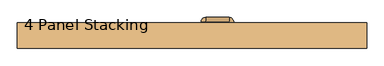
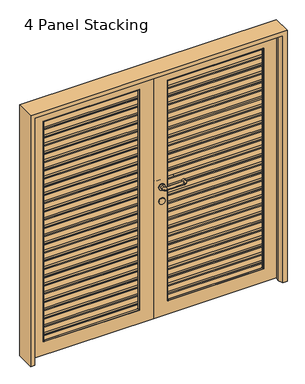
"""IFC4 building model written with IfcOpenShell, lengths in millimetres: door geometry, PORTA VENEZIANA 2 PAINÉIS ABRIR PARAMÉTRICA1 : 4 Panel Stacking."""

from ifc_helpers import new_model, si_unit, point, frame, frame_2d, origin, place, context, project, spatial, polyline, circle_curve, ellipse_curve, trimmed, segment, composite_curve, outline, extrude, faceted_brep, source, transform, mapped, element, save
from ifc_brep_helpers import plane_surface, cylinder_surface, revolved_surface, advanced_brep


def door_4_panel_stacking_4a8a8c32(model_context):
    return source(origin(), model_context, "Body", "SolidModel", [
        extrude(outline(composite_curve([segment(trimmed(circle_curve(frame_2d((2090.0, -75.4238872)), 10.0), [point((2100.0, -75.4238872))], [point((2090.0, -85.4238872))], False, "CARTESIAN"), True, "CONTINUOUS"), segment(polyline([(2090.0, -85.4238872), (1910.0, -85.4238872)]), True, "CONTINUOUS"), segment(trimmed(circle_curve(frame_2d((1910.0, -75.4238872)), 10.0), [point((1910.0, -85.4238872))], [point((1900.0, -75.4238872))], False, "CARTESIAN"), True, "CONTINUOUS"), segment(polyline([(1900.0, -75.4238872), (1900.0, -55.4238872)]), True, "CONTINUOUS"), segment(trimmed(circle_curve(frame_2d((1910.0, -55.4238872)), 10.0), [point((1900.0, -55.4238872))], [point((1910.0, -45.4238872))], False, "CARTESIAN"), True, "CONTINUOUS"), segment(polyline([(1910.0, -45.4238872), (2090.0, -45.4238872)]), True, "CONTINUOUS"), segment(trimmed(circle_curve(frame_2d((2090.0, -55.4238872)), 10.0), [point((2090.0, -45.4238872))], [point((2100.0, -55.4238872))], False, "CARTESIAN"), True, "CONTINUOUS"), segment(polyline([(2100.0, -55.4238872), (2100.0, -75.4238872)]), True, "CONTINUOUS")], self_intersect=False), holes=[composite_curve([segment(polyline([(2060.0, -75.4238872), (2060.0, -55.4238872)]), True, "CONTINUOUS"), segment(trimmed(circle_curve(frame_2d((2055.0, -55.4238872)), 5.0), [point((2060.0, -55.4238872))], [point((2055.0, -50.4238872))], True, "CARTESIAN"), True, "CONTINUOUS"), segment(polyline([(2055.0, -50.4238872), (1945.0, -50.4238872)]), True, "CONTINUOUS"), segment(trimmed(circle_curve(frame_2d((1945.0, -55.4238872)), 5.0), [point((1945.0, -50.4238872))], [point((1940.0, -55.4238872))], True, "CARTESIAN"), True, "CONTINUOUS"), segment(polyline([(1940.0, -55.4238872), (1940.0, -75.4238872)]), True, "CONTINUOUS"), segment(trimmed(circle_curve(frame_2d((1945.0, -75.4238872)), 5.0), [point((1940.0, -75.4238872))], [point((1945.0, -80.4238872))], True, "CARTESIAN"), True, "CONTINUOUS"), segment(polyline([(1945.0, -80.4238872), (2055.0, -80.4238872)]), True, "CONTINUOUS"), segment(trimmed(circle_curve(frame_2d((2055.0, -75.4238872)), 5.0), [point((2055.0, -80.4238872))], [point((2060.0, -75.4238872))], True, "CARTESIAN"), True, "CONTINUOUS")], self_intersect=False), composite_curve([segment(trimmed(circle_curve(frame_2d((2085.0, -65.4238872)), 5.0), [point((2085.0, -70.4238872))], [point((2085.0, -60.4238872))], True, "CARTESIAN"), True, "CONTINUOUS"), segment(trimmed(circle_curve(frame_2d((2085.0, -65.4238872)), 5.0), [point((2085.0, -60.4238872))], [point((2085.0, -70.4238872))], True, "CARTESIAN"), True, "CONTINUOUS")], self_intersect=False), composite_curve([segment(trimmed(circle_curve(frame_2d((1915.0, -65.4238872)), 5.0), [point((1915.0, -70.4238872))], [point((1915.0, -60.4238872))], True, "CARTESIAN"), True, "CONTINUOUS"), segment(trimmed(circle_curve(frame_2d((1915.0, -65.4238872)), 5.0), [point((1915.0, -60.4238872))], [point((1915.0, -70.4238872))], True, "CARTESIAN"), True, "CONTINUOUS")], self_intersect=False)]), frame((0.0, 54.8719375, 0.0), z_axis=(0.0, 1.0, 0.0), x_axis=(0.0, 0.0, 1.0)), (0.0, 0.0, 1.0), 3.0),
        extrude(outline(composite_curve([segment(trimmed(circle_curve(frame_2d((193.7587287, -75.4238872)), 10.0), [point((203.7587287, -75.4238872))], [point((193.7587287, -85.4238872))], False, "CARTESIAN"), True, "CONTINUOUS"), segment(polyline([(193.7587287, -85.4238872), (13.7587287, -85.4238872)]), True, "CONTINUOUS"), segment(trimmed(circle_curve(frame_2d((13.7587287, -75.4238872)), 10.0), [point((13.7587287, -85.4238872))], [point((3.7587287, -75.4238872))], False, "CARTESIAN"), True, "CONTINUOUS"), segment(polyline([(3.7587287, -75.4238872), (3.7587287, -55.4238872)]), True, "CONTINUOUS"), segment(trimmed(circle_curve(frame_2d((13.7587287, -55.4238872)), 10.0), [point((3.7587287, -55.4238872))], [point((13.7587287, -45.4238872))], False, "CARTESIAN"), True, "CONTINUOUS"), segment(polyline([(13.7587287, -45.4238872), (193.7587287, -45.4238872)]), True, "CONTINUOUS"), segment(trimmed(circle_curve(frame_2d((193.7587287, -55.4238872)), 10.0), [point((193.7587287, -45.4238872))], [point((203.7587287, -55.4238872))], False, "CARTESIAN"), True, "CONTINUOUS"), segment(polyline([(203.7587287, -55.4238872), (203.7587287, -75.4238872)]), True, "CONTINUOUS")], self_intersect=False), holes=[composite_curve([segment(trimmed(circle_curve(frame_2d((188.7587287, -65.4238872)), 5.0), [point((188.7587287, -70.4238872))], [point((188.7587287, -60.4238872))], True, "CARTESIAN"), True, "CONTINUOUS"), segment(trimmed(circle_curve(frame_2d((188.7587287, -65.4238872)), 5.0), [point((188.7587287, -60.4238872))], [point((188.7587287, -70.4238872))], True, "CARTESIAN"), True, "CONTINUOUS")], self_intersect=False), composite_curve([segment(trimmed(circle_curve(frame_2d((18.7587287, -65.4238872)), 5.0), [point((18.7587287, -70.4238872))], [point((18.7587287, -60.4238872))], True, "CARTESIAN"), True, "CONTINUOUS"), segment(trimmed(circle_curve(frame_2d((18.7587287, -65.4238872)), 5.0), [point((18.7587287, -60.4238872))], [point((18.7587287, -70.4238872))], True, "CARTESIAN"), True, "CONTINUOUS")], self_intersect=False), composite_curve([segment(polyline([(163.7587287, -75.4238872), (163.7587287, -55.4238872)]), True, "CONTINUOUS"), segment(trimmed(circle_curve(frame_2d((158.7587287, -55.4238872)), 5.0), [point((163.7587287, -55.4238872))], [point((158.7587287, -50.4238872))], True, "CARTESIAN"), True, "CONTINUOUS"), segment(polyline([(158.7587287, -50.4238872), (48.7587287, -50.4238872)]), True, "CONTINUOUS"), segment(trimmed(circle_curve(frame_2d((48.7587287, -55.4238872)), 5.0), [point((48.7587287, -50.4238872))], [point((43.7587287, -55.4238872))], True, "CARTESIAN"), True, "CONTINUOUS"), segment(polyline([(43.7587287, -55.4238872), (43.7587287, -75.4238872)]), True, "CONTINUOUS"), segment(trimmed(circle_curve(frame_2d((48.7587287, -75.4238872)), 5.0), [point((43.7587287, -75.4238872))], [point((48.7587287, -80.4238872))], True, "CARTESIAN"), True, "CONTINUOUS"), segment(polyline([(48.7587287, -80.4238872), (158.7587287, -80.4238872)]), True, "CONTINUOUS"), segment(trimmed(circle_curve(frame_2d((158.7587287, -75.4238872)), 5.0), [point((158.7587287, -80.4238872))], [point((163.7587287, -75.4238872))], True, "CARTESIAN"), True, "CONTINUOUS")], self_intersect=False)]), frame((0.0, 54.8719375, 0.0), z_axis=(0.0, 1.0, 0.0), x_axis=(0.0, 0.0, 1.0)), (0.0, 0.0, 1.0), 3.0),
        advanced_brep(
        [(77.4238872, 62.8719375, 1100.0), (53.4238872, 62.8719375, 1100.0), (77.4238872, 79.8719375, 1100.0), (53.4238872, 79.8719375, 1100.0), (80.4238872, 106.8719375, 1100.0), (80.4238872, 82.8719375, 1100.0), (220.4238872, 82.8719375, 1100.0), (220.4238872, 106.8719375, 1100.0), (247.4238872, 79.8719375, 1100.0), (223.4238872, 79.8719375, 1100.0), (223.4238872, 64.8719375, 1100.0), (247.4238872, 64.8719375, 1100.0)],
        [
            (0, 1, circle_curve(frame((65.4238872, 62.8719375, 1100.0), z_axis=(0.0, -1.0, 0.0), x_axis=(-1.0, 0.0, 0.0)), 12.0)),
            (1, 0, circle_curve(frame((65.4238872, 62.8719375, 1100.0), z_axis=(0.0, -1.0, 0.0), x_axis=(-1.0, 0.0, 0.0)), 12.0)),
            (0, 2),
            (2, 3, circle_curve(frame((65.4238872, 79.8719375, 1100.0), z_axis=(0.0, -1.0, 0.0), x_axis=(-1.0, 0.0, 0.0)), 12.0)),
            (3, 1),
            (3, 2, circle_curve(frame((65.4238872, 79.8719375, 1100.0), z_axis=(0.0, -1.0, 0.0), x_axis=(-1.0, 0.0, 0.0)), 12.0)),
            (4, 3, circle_curve(frame((80.4238872, 79.8719375, 1100.0), z_axis=(0.0, 0.0, 1.0), x_axis=(-1.0, 0.0, 0.0)), 27.0)),
            (2, 5, circle_curve(frame((80.4238872, 79.8719375, 1100.0), z_axis=(0.0, 0.0, -1.0), x_axis=(-1.0, 0.0, 0.0)), 3.0)),
            (5, 4, circle_curve(frame((80.4238872, 94.8719375, 1100.0), z_axis=(-1.0, 0.0, 0.0), x_axis=(0.0, 1.0, 0.0)), 12.0)),
            (4, 5, circle_curve(frame((80.4238872, 94.8719375, 1100.0), z_axis=(-1.0, 0.0, 0.0), x_axis=(0.0, 1.0, 0.0)), 12.0)),
            (5, 6),
            (6, 7, circle_curve(frame((220.4238872, 94.8719375, 1100.0), z_axis=(-1.0, 0.0, 0.0), x_axis=(0.0, 1.0, 0.0)), 12.0)),
            (7, 4),
            (7, 6, circle_curve(frame((220.4238872, 94.8719375, 1100.0), z_axis=(-1.0, 0.0, 0.0), x_axis=(0.0, 1.0, 0.0)), 12.0)),
            (8, 7, circle_curve(frame((220.4238872, 79.8719375, 1100.0), z_axis=(0.0, 0.0, 1.0), x_axis=(0.0, 1.0, 0.0)), 27.0)),
            (6, 9, circle_curve(frame((220.4238872, 79.8719375, 1100.0), z_axis=(0.0, 0.0, -1.0), x_axis=(0.0, 1.0, 0.0)), 3.0)),
            (9, 8, circle_curve(frame((235.4238872, 79.8719375, 1100.0), z_axis=(0.0, 1.0, 0.0), x_axis=(1.0, 0.0, 0.0)), 12.0)),
            (8, 9, circle_curve(frame((235.4238872, 79.8719375, 1100.0), z_axis=(0.0, 1.0, 0.0), x_axis=(1.0, 0.0, 0.0)), 12.0)),
            (10, 11, circle_curve(frame((235.4238872, 64.8719375, 1100.0), z_axis=(0.0, -1.0, 0.0), x_axis=(1.0, 0.0, 0.0)), 12.0)),
            (11, 10, circle_curve(frame((235.4238872, 64.8719375, 1100.0), z_axis=(0.0, -1.0, 0.0), x_axis=(1.0, 0.0, 0.0)), 12.0)),
            (9, 10),
            (11, 8),
        ],
        [
            plane_surface(frame((-776.5761128, 62.8719375, 1930.0), z_axis=(0.0, -1.0, 0.0), x_axis=(0.0, 0.0, 1.0))),
            cylinder_surface(frame((65.4238872, 62.8719375, 1100.0), z_axis=(0.0, -1.0, 0.0), x_axis=(-1.0, 0.0, 0.0)), 12.0),
            revolved_surface(trimmed(ellipse_curve(frame((65.4238872, 79.8719375, 1100.0), z_axis=(0.0, -1.0, 0.0), x_axis=(-1.0, 0.0, 0.0)), 12.0, 12.0), [point((77.4238872, 79.8719375, 1100.0))], [point((53.4238872, 79.8719375, 1100.0))], True, "CARTESIAN"), (80.4238872, 79.8719375, 1930.0), (0.0, 0.0, -1.0)),
            revolved_surface(trimmed(ellipse_curve(frame((65.4238872, 79.8719375, 1100.0), z_axis=(0.0, -1.0, 0.0), x_axis=(-1.0, 0.0, 0.0)), 12.0, 12.0), [point((53.4238872, 79.8719375, 1100.0))], [point((77.4238872, 79.8719375, 1100.0))], True, "CARTESIAN"), (80.4238872, 79.8719375, 1930.0), (0.0, 0.0, -1.0)),
            cylinder_surface(frame((80.4238872, 94.8719375, 1100.0), z_axis=(-1.0, 0.0, 0.0), x_axis=(0.0, 1.0, 0.0)), 12.0),
            revolved_surface(trimmed(ellipse_curve(frame((220.4238872, 94.8719375, 1100.0), z_axis=(-1.0, 0.0, 0.0), x_axis=(0.0, 1.0, 0.0)), 12.0, 12.0), [point((220.4238872, 82.8719375, 1100.0))], [point((220.4238872, 106.8719375, 1100.0))], True, "CARTESIAN"), (220.4238872, 79.8719375, 1930.0), (0.0, 0.0, -1.0)),
            revolved_surface(trimmed(ellipse_curve(frame((220.4238872, 94.8719375, 1100.0), z_axis=(-1.0, 0.0, 0.0), x_axis=(0.0, 1.0, 0.0)), 12.0, 12.0), [point((220.4238872, 106.8719375, 1100.0))], [point((220.4238872, 82.8719375, 1100.0))], True, "CARTESIAN"), (220.4238872, 79.8719375, 1930.0), (0.0, 0.0, -1.0)),
            plane_surface(frame((-606.5761128, 64.8719375, 1930.0), z_axis=(0.0, -1.0, 0.0), x_axis=(0.0, 0.0, -1.0))),
            cylinder_surface(frame((235.4238872, 79.8719375, 1100.0), z_axis=(0.0, 1.0, 0.0), x_axis=(1.0, 0.0, 0.0)), 12.0),
        ],
        [
            (0, [[1, 2]]),
            (1, [[-1, 3, 4, 5]]),
            (1, [[-2, -5, 6, -3]]),
            (2, [[7, -4, 8, 9]]),
            (3, [[-8, -6, -7, 10]]),
            (4, [[-9, 11, 12, 13]]),
            (4, [[-10, -13, 14, -11]]),
            (5, [[15, -12, 16, 17]]),
            (6, [[-16, -14, -15, 18]]),
            (7, [[19, 20]]),
            (8, [[-17, 21, -20, 22]]),
            (8, [[-18, -22, -19, -21]]),
        ],
    ),
        extrude(outline(composite_curve([segment(trimmed(circle_curve(frame_2d((980.0, 65.4238872)), 25.0), [point((980.0, 40.4238872))], [point((980.0, 90.4238872))], False, "CARTESIAN"), True, "CONTINUOUS"), segment(trimmed(circle_curve(frame_2d((980.0, 65.4238872)), 25.0), [point((980.0, 90.4238872))], [point((980.0, 40.4238872))], False, "CARTESIAN"), True, "CONTINUOUS")], self_intersect=False)), frame((0.0, 54.8719375, 0.0), z_axis=(0.0, 1.0, 0.0), x_axis=(0.0, 0.0, 1.0)), (0.0, 0.0, 1.0), 8.0),
        extrude(outline(composite_curve([segment(trimmed(circle_curve(frame_2d((1100.0, 65.4238872)), 25.0), [point((1100.0, 40.4238872))], [point((1100.0, 90.4238872))], False, "CARTESIAN"), True, "CONTINUOUS"), segment(trimmed(circle_curve(frame_2d((1100.0, 65.4238872)), 25.0), [point((1100.0, 90.4238872))], [point((1100.0, 40.4238872))], False, "CARTESIAN"), True, "CONTINUOUS")], self_intersect=False)), frame((0.0, 54.8719375, 0.0), z_axis=(0.0, 1.0, 0.0), x_axis=(0.0, 0.0, 1.0)), (0.0, 0.0, 1.0), 8.0),
        advanced_brep(
        [(53.4238872, -8.1280625, 1100.0), (77.4238872, -8.1280625, 1100.0), (53.4238872, -25.1280625, 1100.0), (77.4238872, -25.1280625, 1100.0), (80.4238872, -28.1280625, 1100.0), (80.4238872, -52.1280625, 1100.0), (220.4238872, -52.1280625, 1100.0), (220.4238872, -28.1280625, 1100.0), (223.4238872, -25.1280625, 1100.0), (247.4238872, -25.1280625, 1100.0), (247.4238872, -10.1280625, 1100.0), (223.4238872, -10.1280625, 1100.0)],
        [
            (0, 1, circle_curve(frame((65.4238872, -8.1280625, 1100.0), z_axis=(0.0, 1.0, 0.0), x_axis=(1.0, 0.0, 0.0)), 12.0)),
            (1, 0, circle_curve(frame((65.4238872, -8.1280625, 1100.0), z_axis=(0.0, 1.0, 0.0), x_axis=(1.0, 0.0, 0.0)), 12.0)),
            (0, 2),
            (2, 3, circle_curve(frame((65.4238872, -25.1280625, 1100.0), z_axis=(0.0, 1.0, 0.0), x_axis=(1.0, 0.0, 0.0)), 12.0)),
            (3, 1),
            (3, 2, circle_curve(frame((65.4238872, -25.1280625, 1100.0), z_axis=(0.0, 1.0, 0.0), x_axis=(1.0, 0.0, 0.0)), 12.0)),
            (4, 3, circle_curve(frame((80.4238872, -25.1280625, 1100.0), z_axis=(0.0, 0.0, -1.0), x_axis=(-1.0, 0.0, 0.0)), 3.0)),
            (2, 5, circle_curve(frame((80.4238872, -25.1280625, 1100.0), z_axis=(0.0, 0.0, 1.0), x_axis=(-1.0, 0.0, 0.0)), 27.0)),
            (5, 4, circle_curve(frame((80.4238872, -40.1280625, 1100.0), z_axis=(-1.0, 0.0, 0.0), x_axis=(0.0, 1.0, 0.0)), 12.0)),
            (4, 5, circle_curve(frame((80.4238872, -40.1280625, 1100.0), z_axis=(-1.0, 0.0, 0.0), x_axis=(0.0, 1.0, 0.0)), 12.0)),
            (5, 6),
            (6, 7, circle_curve(frame((220.4238872, -40.1280625, 1100.0), z_axis=(-1.0, 0.0, 0.0), x_axis=(0.0, 1.0, 0.0)), 12.0)),
            (7, 4),
            (7, 6, circle_curve(frame((220.4238872, -40.1280625, 1100.0), z_axis=(-1.0, 0.0, 0.0), x_axis=(0.0, 1.0, 0.0)), 12.0)),
            (8, 7, circle_curve(frame((220.4238872, -25.1280625, 1100.0), z_axis=(0.0, 0.0, -1.0), x_axis=(0.0, -1.0, 0.0)), 3.0)),
            (6, 9, circle_curve(frame((220.4238872, -25.1280625, 1100.0), z_axis=(0.0, 0.0, 1.0), x_axis=(0.0, -1.0, 0.0)), 27.0)),
            (9, 8, circle_curve(frame((235.4238872, -25.1280625, 1100.0), z_axis=(0.0, -1.0, 0.0), x_axis=(-1.0, 0.0, 0.0)), 12.0)),
            (8, 9, circle_curve(frame((235.4238872, -25.1280625, 1100.0), z_axis=(0.0, -1.0, 0.0), x_axis=(-1.0, 0.0, 0.0)), 12.0)),
            (10, 11, circle_curve(frame((235.4238872, -10.1280625, 1100.0), z_axis=(0.0, 1.0, 0.0), x_axis=(-1.0, 0.0, 0.0)), 12.0)),
            (11, 10, circle_curve(frame((235.4238872, -10.1280625, 1100.0), z_axis=(0.0, 1.0, 0.0), x_axis=(-1.0, 0.0, 0.0)), 12.0)),
            (9, 10),
            (11, 8),
        ],
        [
            plane_surface(frame((-776.5761128, -8.1280625, 1930.0), z_axis=(0.0, 1.0, 0.0), x_axis=(0.0, 0.0, -1.0))),
            cylinder_surface(frame((65.4238872, -8.1280625, 1100.0), z_axis=(0.0, 1.0, 0.0), x_axis=(1.0, 0.0, 0.0)), 12.0),
            revolved_surface(trimmed(ellipse_curve(frame((65.4238872, -25.1280625, 1100.0), z_axis=(0.0, 1.0, 0.0), x_axis=(1.0, 0.0, 0.0)), 12.0, 12.0), [point((53.4238872, -25.1280625, 1100.0))], [point((77.4238872, -25.1280625, 1100.0))], True, "CARTESIAN"), (80.4238872, -25.1280625, 1930.0), (0.0, 0.0, 1.0)),
            revolved_surface(trimmed(ellipse_curve(frame((65.4238872, -25.1280625, 1100.0), z_axis=(0.0, 1.0, 0.0), x_axis=(1.0, 0.0, 0.0)), 12.0, 12.0), [point((77.4238872, -25.1280625, 1100.0))], [point((53.4238872, -25.1280625, 1100.0))], True, "CARTESIAN"), (80.4238872, -25.1280625, 1930.0), (0.0, 0.0, 1.0)),
            cylinder_surface(frame((80.4238872, -40.1280625, 1100.0), z_axis=(-1.0, 0.0, 0.0), x_axis=(0.0, 1.0, 0.0)), 12.0),
            revolved_surface(trimmed(ellipse_curve(frame((220.4238872, -40.1280625, 1100.0), z_axis=(-1.0, 0.0, 0.0), x_axis=(0.0, 1.0, 0.0)), 12.0, 12.0), [point((220.4238872, -52.1280625, 1100.0))], [point((220.4238872, -28.1280625, 1100.0))], True, "CARTESIAN"), (220.4238872, -25.1280625, 1930.0), (0.0, 0.0, 1.0)),
            revolved_surface(trimmed(ellipse_curve(frame((220.4238872, -40.1280625, 1100.0), z_axis=(-1.0, 0.0, 0.0), x_axis=(0.0, 1.0, 0.0)), 12.0, 12.0), [point((220.4238872, -28.1280625, 1100.0))], [point((220.4238872, -52.1280625, 1100.0))], True, "CARTESIAN"), (220.4238872, -25.1280625, 1930.0), (0.0, 0.0, 1.0)),
            plane_surface(frame((-606.5761128, -10.1280625, 1930.0), z_axis=(0.0, 1.0, 0.0), x_axis=(0.0, 0.0, 1.0))),
            cylinder_surface(frame((235.4238872, -25.1280625, 1100.0), z_axis=(0.0, -1.0, 0.0), x_axis=(-1.0, 0.0, 0.0)), 12.0),
        ],
        [
            (0, [[1, 2]]),
            (1, [[-1, 3, 4, 5]]),
            (1, [[-2, -5, 6, -3]]),
            (2, [[7, -4, 8, 9]]),
            (3, [[-8, -6, -7, 10]]),
            (4, [[-9, 11, 12, 13]]),
            (4, [[-10, -13, 14, -11]]),
            (5, [[15, -12, 16, 17]]),
            (6, [[-16, -14, -15, 18]]),
            (7, [[19, 20]]),
            (8, [[-17, 21, -20, 22]]),
            (8, [[-18, -22, -19, -21]]),
        ],
    ),
        extrude(outline(composite_curve([segment(trimmed(circle_curve(frame_2d((980.0, 65.4238872)), 25.0), [point((980.0, 40.4238872))], [point((980.0, 90.4238872))], False, "CARTESIAN"), True, "CONTINUOUS"), segment(trimmed(circle_curve(frame_2d((980.0, 65.4238872)), 25.0), [point((980.0, 90.4238872))], [point((980.0, 40.4238872))], False, "CARTESIAN"), True, "CONTINUOUS")], self_intersect=False)), frame((0.0, -8.1280625, 0.0), z_axis=(0.0, 1.0, 0.0), x_axis=(0.0, 0.0, 1.0)), (0.0, 0.0, 1.0), 8.0),
        extrude(outline(composite_curve([segment(trimmed(circle_curve(frame_2d((1100.0, 65.4238872)), 25.0), [point((1100.0, 40.4238872))], [point((1100.0, 90.4238872))], False, "CARTESIAN"), True, "CONTINUOUS"), segment(trimmed(circle_curve(frame_2d((1100.0, 65.4238872)), 25.0), [point((1100.0, 90.4238872))], [point((1100.0, 40.4238872))], False, "CARTESIAN"), True, "CONTINUOUS")], self_intersect=False)), frame((0.0, -8.1280625, 0.0), z_axis=(0.0, 1.0, 0.0), x_axis=(0.0, 0.0, 1.0)), (0.0, 0.0, 1.0), 8.0),
        extrude(outline(polyline([(17.4419219, 1926.3224878), (17.4419219, 1911.3224878), (16.4419219, 1911.3224878), (16.4419219, 1926.4625427), (26.4419219, 1961.4625427), (26.4419219, 1980.3224878), (16.4419219, 1980.3224878), (16.4419219, 1981.3224878), (27.4419219, 1981.3224878), (27.4419219, 1961.3224878), (17.4419219, 1926.3224878)])), frame((-900.075, 0.0, 0.0), z_axis=(1.0, 0.0, 0.0), x_axis=(0.0, 1.0, 0.0)), (0.0, 0.0, 1.0), 800.0),
        extrude(outline(polyline([(17.4419219, 1856.3224878), (17.4419219, 1841.3224878), (16.4419219, 1841.3224878), (16.4419219, 1856.4625427), (26.4419219, 1891.4625427), (26.4419219, 1910.3224878), (16.4419219, 1910.3224878), (16.4419219, 1911.3224878), (27.4419219, 1911.3224878), (27.4419219, 1891.3224878), (17.4419219, 1856.3224878)])), frame((-900.075, 0.0, 0.0), z_axis=(1.0, 0.0, 0.0), x_axis=(0.0, 1.0, 0.0)), (0.0, 0.0, 1.0), 800.0),
        extrude(outline(polyline([(17.4419219, 1786.3224878), (17.4419219, 1771.3224878), (16.4419219, 1771.3224878), (16.4419219, 1786.4625427), (26.4419219, 1821.4625427), (26.4419219, 1840.3224878), (16.4419219, 1840.3224878), (16.4419219, 1841.3224878), (27.4419219, 1841.3224878), (27.4419219, 1821.3224878), (17.4419219, 1786.3224878)])), frame((-900.075, 0.0, 0.0), z_axis=(1.0, 0.0, 0.0), x_axis=(0.0, 1.0, 0.0)), (0.0, 0.0, 1.0), 800.0),
        extrude(outline(polyline([(17.4419219, 1716.3224878), (17.4419219, 1701.3224878), (16.4419219, 1701.3224878), (16.4419219, 1716.4625427), (26.4419219, 1751.4625427), (26.4419219, 1770.3224878), (16.4419219, 1770.3224878), (16.4419219, 1771.3224878), (27.4419219, 1771.3224878), (27.4419219, 1751.3224878), (17.4419219, 1716.3224878)])), frame((-900.075, 0.0, 0.0), z_axis=(1.0, 0.0, 0.0), x_axis=(0.0, 1.0, 0.0)), (0.0, 0.0, 1.0), 800.0),
        extrude(outline(polyline([(17.4419219, 1646.3224878), (17.4419219, 1631.3224878), (16.4419219, 1631.3224878), (16.4419219, 1646.4625427), (26.4419219, 1681.4625427), (26.4419219, 1700.3224878), (16.4419219, 1700.3224878), (16.4419219, 1701.3224878), (27.4419219, 1701.3224878), (27.4419219, 1681.3224878), (17.4419219, 1646.3224878)])), frame((-900.075, 0.0, 0.0), z_axis=(1.0, 0.0, 0.0), x_axis=(0.0, 1.0, 0.0)), (0.0, 0.0, 1.0), 800.0),
        extrude(outline(polyline([(17.4419219, 1576.3224878), (17.4419219, 1561.3224878), (16.4419219, 1561.3224878), (16.4419219, 1576.4625427), (26.4419219, 1611.4625427), (26.4419219, 1630.3224878), (16.4419219, 1630.3224878), (16.4419219, 1631.3224878), (27.4419219, 1631.3224878), (27.4419219, 1611.3224878), (17.4419219, 1576.3224878)])), frame((-900.075, 0.0, 0.0), z_axis=(1.0, 0.0, 0.0), x_axis=(0.0, 1.0, 0.0)), (0.0, 0.0, 1.0), 800.0),
        extrude(outline(polyline([(17.4419219, 1506.3224878), (17.4419219, 1491.3224878), (16.4419219, 1491.3224878), (16.4419219, 1506.4625427), (26.4419219, 1541.4625427), (26.4419219, 1560.3224878), (16.4419219, 1560.3224878), (16.4419219, 1561.3224878), (27.4419219, 1561.3224878), (27.4419219, 1541.3224878), (17.4419219, 1506.3224878)])), frame((-900.075, 0.0, 0.0), z_axis=(1.0, 0.0, 0.0), x_axis=(0.0, 1.0, 0.0)), (0.0, 0.0, 1.0), 800.0),
        extrude(outline(polyline([(17.4419219, 1436.3224878), (17.4419219, 1421.3224878), (16.4419219, 1421.3224878), (16.4419219, 1436.4625427), (26.4419219, 1471.4625427), (26.4419219, 1490.3224878), (16.4419219, 1490.3224878), (16.4419219, 1491.3224878), (27.4419219, 1491.3224878), (27.4419219, 1471.3224878), (17.4419219, 1436.3224878)])), frame((-900.075, 0.0, 0.0), z_axis=(1.0, 0.0, 0.0), x_axis=(0.0, 1.0, 0.0)), (0.0, 0.0, 1.0), 800.0),
        extrude(outline(polyline([(17.4419219, 1366.3224878), (17.4419219, 1351.3224878), (16.4419219, 1351.3224878), (16.4419219, 1366.4625427), (26.4419219, 1401.4625427), (26.4419219, 1420.3224878), (16.4419219, 1420.3224878), (16.4419219, 1421.3224878), (27.4419219, 1421.3224878), (27.4419219, 1401.3224878), (17.4419219, 1366.3224878)])), frame((-900.075, 0.0, 0.0), z_axis=(1.0, 0.0, 0.0), x_axis=(0.0, 1.0, 0.0)), (0.0, 0.0, 1.0), 800.0),
        extrude(outline(polyline([(17.4419219, 1296.3224878), (17.4419219, 1281.3224878), (16.4419219, 1281.3224878), (16.4419219, 1296.4625427), (26.4419219, 1331.4625427), (26.4419219, 1350.3224878), (16.4419219, 1350.3224878), (16.4419219, 1351.3224878), (27.4419219, 1351.3224878), (27.4419219, 1331.3224878), (17.4419219, 1296.3224878)])), frame((-900.075, 0.0, 0.0), z_axis=(1.0, 0.0, 0.0), x_axis=(0.0, 1.0, 0.0)), (0.0, 0.0, 1.0), 800.0),
        extrude(outline(polyline([(17.4419219, 1226.3224878), (17.4419219, 1211.3224878), (16.4419219, 1211.3224878), (16.4419219, 1226.4625427), (26.4419219, 1261.4625427), (26.4419219, 1280.3224878), (16.4419219, 1280.3224878), (16.4419219, 1281.3224878), (27.4419219, 1281.3224878), (27.4419219, 1261.3224878), (17.4419219, 1226.3224878)])), frame((-900.075, 0.0, 0.0), z_axis=(1.0, 0.0, 0.0), x_axis=(0.0, 1.0, 0.0)), (0.0, 0.0, 1.0), 800.0),
        extrude(outline(polyline([(17.4419219, 1156.3224878), (17.4419219, 1141.3224878), (16.4419219, 1141.3224878), (16.4419219, 1156.4625427), (26.4419219, 1191.4625427), (26.4419219, 1210.3224878), (16.4419219, 1210.3224878), (16.4419219, 1211.3224878), (27.4419219, 1211.3224878), (27.4419219, 1191.3224878), (17.4419219, 1156.3224878)])), frame((-900.075, 0.0, 0.0), z_axis=(1.0, 0.0, 0.0), x_axis=(0.0, 1.0, 0.0)), (0.0, 0.0, 1.0), 800.0),
        extrude(outline(polyline([(17.4419219, 1086.3224878), (17.4419219, 1071.3224878), (16.4419219, 1071.3224878), (16.4419219, 1086.4625427), (26.4419219, 1121.4625427), (26.4419219, 1140.3224878), (16.4419219, 1140.3224878), (16.4419219, 1141.3224878), (27.4419219, 1141.3224878), (27.4419219, 1121.3224878), (17.4419219, 1086.3224878)])), frame((-900.075, 0.0, 0.0), z_axis=(1.0, 0.0, 0.0), x_axis=(0.0, 1.0, 0.0)), (0.0, 0.0, 1.0), 800.0),
        extrude(outline(polyline([(17.4419219, 1016.3224878), (17.4419219, 1001.3224878), (16.4419219, 1001.3224878), (16.4419219, 1016.4625427), (26.4419219, 1051.4625427), (26.4419219, 1070.3224878), (16.4419219, 1070.3224878), (16.4419219, 1071.3224878), (27.4419219, 1071.3224878), (27.4419219, 1051.3224878), (17.4419219, 1016.3224878)])), frame((-900.075, 0.0, 0.0), z_axis=(1.0, 0.0, 0.0), x_axis=(0.0, 1.0, 0.0)), (0.0, 0.0, 1.0), 800.0),
        extrude(outline(polyline([(17.4419219, 946.3224878), (17.4419219, 931.3224878), (16.4419219, 931.3224878), (16.4419219, 946.4625427), (26.4419219, 981.4625427), (26.4419219, 1000.3224878), (16.4419219, 1000.3224878), (16.4419219, 1001.3224878), (27.4419219, 1001.3224878), (27.4419219, 981.3224878), (17.4419219, 946.3224878)])), frame((-900.075, 0.0, 0.0), z_axis=(1.0, 0.0, 0.0), x_axis=(0.0, 1.0, 0.0)), (0.0, 0.0, 1.0), 800.0),
        extrude(outline(polyline([(17.4419219, 876.3224878), (17.4419219, 861.3224878), (16.4419219, 861.3224878), (16.4419219, 876.4625427), (26.4419219, 911.4625427), (26.4419219, 930.3224878), (16.4419219, 930.3224878), (16.4419219, 931.3224878), (27.4419219, 931.3224878), (27.4419219, 911.3224878), (17.4419219, 876.3224878)])), frame((-900.075, 0.0, 0.0), z_axis=(1.0, 0.0, 0.0), x_axis=(0.0, 1.0, 0.0)), (0.0, 0.0, 1.0), 800.0),
        extrude(outline(polyline([(17.4419219, 806.3224878), (17.4419219, 791.3224878), (16.4419219, 791.3224878), (16.4419219, 806.4625427), (26.4419219, 841.4625427), (26.4419219, 860.3224878), (16.4419219, 860.3224878), (16.4419219, 861.3224878), (27.4419219, 861.3224878), (27.4419219, 841.3224878), (17.4419219, 806.3224878)])), frame((-900.075, 0.0, 0.0), z_axis=(1.0, 0.0, 0.0), x_axis=(0.0, 1.0, 0.0)), (0.0, 0.0, 1.0), 800.0),
        extrude(outline(polyline([(17.4419219, 736.3224878), (17.4419219, 721.3224878), (16.4419219, 721.3224878), (16.4419219, 736.4625427), (26.4419219, 771.4625427), (26.4419219, 790.3224878), (16.4419219, 790.3224878), (16.4419219, 791.3224878), (27.4419219, 791.3224878), (27.4419219, 771.3224878), (17.4419219, 736.3224878)])), frame((-900.075, 0.0, 0.0), z_axis=(1.0, 0.0, 0.0), x_axis=(0.0, 1.0, 0.0)), (0.0, 0.0, 1.0), 800.0),
        extrude(outline(polyline([(17.4419219, 666.3224878), (17.4419219, 651.3224878), (16.4419219, 651.3224878), (16.4419219, 666.4625427), (26.4419219, 701.4625427), (26.4419219, 720.3224878), (16.4419219, 720.3224878), (16.4419219, 721.3224878), (27.4419219, 721.3224878), (27.4419219, 701.3224878), (17.4419219, 666.3224878)])), frame((-900.075, 0.0, 0.0), z_axis=(1.0, 0.0, 0.0), x_axis=(0.0, 1.0, 0.0)), (0.0, 0.0, 1.0), 800.0),
        extrude(outline(polyline([(17.4419219, 596.3224878), (17.4419219, 581.3224878), (16.4419219, 581.3224878), (16.4419219, 596.4625427), (26.4419219, 631.4625427), (26.4419219, 650.3224878), (16.4419219, 650.3224878), (16.4419219, 651.3224878), (27.4419219, 651.3224878), (27.4419219, 631.3224878), (17.4419219, 596.3224878)])), frame((-900.075, 0.0, 0.0), z_axis=(1.0, 0.0, 0.0), x_axis=(0.0, 1.0, 0.0)), (0.0, 0.0, 1.0), 800.0),
        extrude(outline(polyline([(17.4419219, 526.3224878), (17.4419219, 511.3224878), (16.4419219, 511.3224878), (16.4419219, 526.4625427), (26.4419219, 561.4625427), (26.4419219, 580.3224878), (16.4419219, 580.3224878), (16.4419219, 581.3224878), (27.4419219, 581.3224878), (27.4419219, 561.3224878), (17.4419219, 526.3224878)])), frame((-900.075, 0.0, 0.0), z_axis=(1.0, 0.0, 0.0), x_axis=(0.0, 1.0, 0.0)), (0.0, 0.0, 1.0), 800.0),
        extrude(outline(polyline([(17.4419219, 456.3224878), (17.4419219, 441.3224878), (16.4419219, 441.3224878), (16.4419219, 456.4625427), (26.4419219, 491.4625427), (26.4419219, 510.3224878), (16.4419219, 510.3224878), (16.4419219, 511.3224878), (27.4419219, 511.3224878), (27.4419219, 491.3224878), (17.4419219, 456.3224878)])), frame((-900.075, 0.0, 0.0), z_axis=(1.0, 0.0, 0.0), x_axis=(0.0, 1.0, 0.0)), (0.0, 0.0, 1.0), 800.0),
        extrude(outline(polyline([(17.4419219, 386.3224878), (17.4419219, 371.3224878), (16.4419219, 371.3224878), (16.4419219, 386.4625427), (26.4419219, 421.4625427), (26.4419219, 440.3224878), (16.4419219, 440.3224878), (16.4419219, 441.3224878), (27.4419219, 441.3224878), (27.4419219, 421.3224878), (17.4419219, 386.3224878)])), frame((-900.075, 0.0, 0.0), z_axis=(1.0, 0.0, 0.0), x_axis=(0.0, 1.0, 0.0)), (0.0, 0.0, 1.0), 800.0),
        extrude(outline(polyline([(17.4419219, 316.3224878), (17.4419219, 301.3224878), (16.4419219, 301.3224878), (16.4419219, 316.4625427), (26.4419219, 351.4625427), (26.4419219, 370.3224878), (16.4419219, 370.3224878), (16.4419219, 371.3224878), (27.4419219, 371.3224878), (27.4419219, 351.3224878), (17.4419219, 316.3224878)])), frame((-900.075, 0.0, 0.0), z_axis=(1.0, 0.0, 0.0), x_axis=(0.0, 1.0, 0.0)), (0.0, 0.0, 1.0), 800.0),
        extrude(outline(polyline([(17.4419219, 246.3224878), (17.4419219, 231.3224878), (16.4419219, 231.3224878), (16.4419219, 246.4625427), (26.4419219, 281.4625427), (26.4419219, 300.3224878), (16.4419219, 300.3224878), (16.4419219, 301.3224878), (27.4419219, 301.3224878), (27.4419219, 281.3224878), (17.4419219, 246.3224878)])), frame((-900.075, 0.0, 0.0), z_axis=(1.0, 0.0, 0.0), x_axis=(0.0, 1.0, 0.0)), (0.0, 0.0, 1.0), 800.0),
        extrude(outline(polyline([(17.4419219, 176.3224878), (17.4419219, 161.3224878), (16.4419219, 161.3224878), (16.4419219, 176.4625427), (26.4419219, 211.4625427), (26.4419219, 230.3224878), (16.4419219, 230.3224878), (16.4419219, 231.3224878), (27.4419219, 231.3224878), (27.4419219, 211.3224878), (17.4419219, 176.3224878)])), frame((-900.075, 0.0, 0.0), z_axis=(1.0, 0.0, 0.0), x_axis=(0.0, 1.0, 0.0)), (0.0, 0.0, 1.0), 800.0),
        extrude(outline(polyline([(17.4419219, 106.3224878), (17.4419219, 91.3224878), (16.4419219, 91.3224878), (16.4419219, 106.4625427), (26.4419219, 141.4625427), (26.4419219, 160.3224878), (16.4419219, 160.3224878), (16.4419219, 161.3224878), (27.4419219, 161.3224878), (27.4419219, 141.3224878), (17.4419219, 106.3224878)])), frame((-900.075, 0.0, 0.0), z_axis=(1.0, 0.0, 0.0), x_axis=(0.0, 1.0, 0.0)), (0.0, 0.0, 1.0), 800.0),
        faceted_brep([(-0.075, 54.8719375, 0.0003438), (-0.075, 0.0079375, 0.0003438), (-1000.075, 0.0079375, 0.0003438), (-1000.075, 54.8719375, 0.0003438), (-112.724, 53.3479375, 112.6493438), (-112.724, 54.8719375, 112.6493438), (-887.426, 54.8719375, 112.6493438), (-887.426, 53.3479375, 112.6493438), (-117.296, 46.4899375, 117.2213438), (-882.854, 46.4899375, 117.2213438), (-118.82, 38.1079375, 118.7453438), (-118.82, 46.4899375, 118.7453438), (-881.33, 46.4899375, 118.7453438), (-881.33, 38.1079375, 118.7453438), (-91.397144, 9.9139375, 91.3224878), (-91.397144, 38.1079375, 91.3224878), (-908.752856, 38.1079375, 91.3224878), (-908.752856, 9.9139375, 91.3224878), (-118.82, 8.3899375, 118.7453438), (-118.82, 9.9139375, 118.7453438), (-881.33, 9.9139375, 118.7453438), (-881.33, 8.3899375, 118.7453438), (-112.724, 2.2939375, 112.6493438), (-887.426, 2.2939375, 112.6493438), (-112.724, 0.0079375, 112.6493438), (-887.426, 0.0079375, 112.6493438), (-1000.075, 0.0079375, 2100.0003437), (-1000.075, 54.8719375, 2100.0003437), (-887.426, 54.8719375, 1987.3513437), (-887.426, 53.3479375, 1987.3513437), (-882.854, 46.4899375, 1982.7793437), (-881.33, 46.4899375, 1981.2553437), (-881.33, 38.1079375, 1981.2553437), (-908.752856, 38.1079375, 2008.6781997), (-908.752856, 9.9139375, 2008.6781997), (-881.33, 9.9139375, 1981.2553437), (-881.33, 8.3899375, 1981.2553437), (-887.426, 2.2939375, 1987.3513437), (-887.426, 0.0079375, 1987.3513437), (-0.075, 0.0079375, 2100.0003437), (-0.075, 54.8719375, 2100.0003437), (-112.724, 54.8719375, 1987.3513437), (-112.724, 53.3479375, 1987.3513437), (-117.296, 46.4899375, 1982.7793437), (-118.82, 46.4899375, 1981.2553437), (-118.82, 38.1079375, 1981.2553437), (-91.397144, 38.1079375, 2008.6781997), (-91.397144, 9.9139375, 2008.6781997), (-118.82, 9.9139375, 1981.2553437), (-118.82, 8.3899375, 1981.2553437), (-112.724, 2.2939375, 1987.3513437), (-112.724, 0.0079375, 1987.3513437)], [[[0, 1, 2, 3]], [[4, 5, 6, 7]], [[8, 4, 7, 9]], [[10, 11, 12, 13]], [[14, 15, 16, 17]], [[18, 19, 20, 21]], [[22, 18, 21, 23]], [[24, 22, 23, 25]], [[3, 2, 26, 27]], [[7, 6, 28, 29]], [[9, 7, 29, 30]], [[13, 12, 31, 32]], [[17, 16, 33, 34]], [[21, 20, 35, 36]], [[23, 21, 36, 37]], [[25, 23, 37, 38]], [[27, 26, 39, 40]], [[29, 28, 41, 42]], [[30, 29, 42, 43]], [[32, 31, 44, 45]], [[34, 33, 46, 47]], [[36, 35, 48, 49]], [[37, 36, 49, 50]], [[38, 37, 50, 51]], [[40, 39, 1, 0]], [[3, 27, 40, 0], [5, 41, 28, 6]], [[42, 41, 5, 4]], [[43, 42, 4, 8]], [[9, 30, 43, 8], [11, 44, 31, 12]], [[45, 44, 11, 10]], [[15, 46, 33, 16], [13, 32, 45, 10]], [[47, 46, 15, 14]], [[17, 34, 47, 14], [19, 48, 35, 20]], [[49, 48, 19, 18]], [[50, 49, 18, 22]], [[51, 50, 22, 24]], [[1, 39, 26, 2], [25, 38, 51, 24]]]),
        extrude(outline(polyline([(17.4419219, 1926.3224878), (17.4419219, 1911.3224878), (16.4419219, 1911.3224878), (16.4419219, 1926.4625427), (26.4419219, 1961.4625427), (26.4419219, 1980.3224878), (16.4419219, 1980.3224878), (16.4419219, 1981.3224878), (27.4419219, 1981.3224878), (27.4419219, 1961.3224878), (17.4419219, 1926.3224878)])), frame((100.075, 0.0, 0.0), z_axis=(1.0, 0.0, 0.0), x_axis=(0.0, 1.0, 0.0)), (0.0, 0.0, 1.0), 800.0),
        extrude(outline(polyline([(17.4419219, 1856.3224878), (17.4419219, 1841.3224878), (16.4419219, 1841.3224878), (16.4419219, 1856.4625427), (26.4419219, 1891.4625427), (26.4419219, 1910.3224878), (16.4419219, 1910.3224878), (16.4419219, 1911.3224878), (27.4419219, 1911.3224878), (27.4419219, 1891.3224878), (17.4419219, 1856.3224878)])), frame((100.075, 0.0, 0.0), z_axis=(1.0, 0.0, 0.0), x_axis=(0.0, 1.0, 0.0)), (0.0, 0.0, 1.0), 800.0),
        extrude(outline(polyline([(17.4419219, 1786.3224878), (17.4419219, 1771.3224878), (16.4419219, 1771.3224878), (16.4419219, 1786.4625427), (26.4419219, 1821.4625427), (26.4419219, 1840.3224878), (16.4419219, 1840.3224878), (16.4419219, 1841.3224878), (27.4419219, 1841.3224878), (27.4419219, 1821.3224878), (17.4419219, 1786.3224878)])), frame((100.075, 0.0, 0.0), z_axis=(1.0, 0.0, 0.0), x_axis=(0.0, 1.0, 0.0)), (0.0, 0.0, 1.0), 800.0),
        extrude(outline(polyline([(17.4419219, 1716.3224878), (17.4419219, 1701.3224878), (16.4419219, 1701.3224878), (16.4419219, 1716.4625427), (26.4419219, 1751.4625427), (26.4419219, 1770.3224878), (16.4419219, 1770.3224878), (16.4419219, 1771.3224878), (27.4419219, 1771.3224878), (27.4419219, 1751.3224878), (17.4419219, 1716.3224878)])), frame((100.075, 0.0, 0.0), z_axis=(1.0, 0.0, 0.0), x_axis=(0.0, 1.0, 0.0)), (0.0, 0.0, 1.0), 800.0),
        extrude(outline(polyline([(17.4419219, 1646.3224878), (17.4419219, 1631.3224878), (16.4419219, 1631.3224878), (16.4419219, 1646.4625427), (26.4419219, 1681.4625427), (26.4419219, 1700.3224878), (16.4419219, 1700.3224878), (16.4419219, 1701.3224878), (27.4419219, 1701.3224878), (27.4419219, 1681.3224878), (17.4419219, 1646.3224878)])), frame((100.075, 0.0, 0.0), z_axis=(1.0, 0.0, 0.0), x_axis=(0.0, 1.0, 0.0)), (0.0, 0.0, 1.0), 800.0),
        extrude(outline(polyline([(17.4419219, 1576.3224878), (17.4419219, 1561.3224878), (16.4419219, 1561.3224878), (16.4419219, 1576.4625427), (26.4419219, 1611.4625427), (26.4419219, 1630.3224878), (16.4419219, 1630.3224878), (16.4419219, 1631.3224878), (27.4419219, 1631.3224878), (27.4419219, 1611.3224878), (17.4419219, 1576.3224878)])), frame((100.075, 0.0, 0.0), z_axis=(1.0, 0.0, 0.0), x_axis=(0.0, 1.0, 0.0)), (0.0, 0.0, 1.0), 800.0),
        extrude(outline(polyline([(17.4419219, 1506.3224878), (17.4419219, 1491.3224878), (16.4419219, 1491.3224878), (16.4419219, 1506.4625427), (26.4419219, 1541.4625427), (26.4419219, 1560.3224878), (16.4419219, 1560.3224878), (16.4419219, 1561.3224878), (27.4419219, 1561.3224878), (27.4419219, 1541.3224878), (17.4419219, 1506.3224878)])), frame((100.075, 0.0, 0.0), z_axis=(1.0, 0.0, 0.0), x_axis=(0.0, 1.0, 0.0)), (0.0, 0.0, 1.0), 800.0),
        extrude(outline(polyline([(17.4419219, 1436.3224878), (17.4419219, 1421.3224878), (16.4419219, 1421.3224878), (16.4419219, 1436.4625427), (26.4419219, 1471.4625427), (26.4419219, 1490.3224878), (16.4419219, 1490.3224878), (16.4419219, 1491.3224878), (27.4419219, 1491.3224878), (27.4419219, 1471.3224878), (17.4419219, 1436.3224878)])), frame((100.075, 0.0, 0.0), z_axis=(1.0, 0.0, 0.0), x_axis=(0.0, 1.0, 0.0)), (0.0, 0.0, 1.0), 800.0),
        extrude(outline(polyline([(17.4419219, 1366.3224878), (17.4419219, 1351.3224878), (16.4419219, 1351.3224878), (16.4419219, 1366.4625427), (26.4419219, 1401.4625427), (26.4419219, 1420.3224878), (16.4419219, 1420.3224878), (16.4419219, 1421.3224878), (27.4419219, 1421.3224878), (27.4419219, 1401.3224878), (17.4419219, 1366.3224878)])), frame((100.075, 0.0, 0.0), z_axis=(1.0, 0.0, 0.0), x_axis=(0.0, 1.0, 0.0)), (0.0, 0.0, 1.0), 800.0),
        extrude(outline(polyline([(17.4419219, 1296.3224878), (17.4419219, 1281.3224878), (16.4419219, 1281.3224878), (16.4419219, 1296.4625427), (26.4419219, 1331.4625427), (26.4419219, 1350.3224878), (16.4419219, 1350.3224878), (16.4419219, 1351.3224878), (27.4419219, 1351.3224878), (27.4419219, 1331.3224878), (17.4419219, 1296.3224878)])), frame((100.075, 0.0, 0.0), z_axis=(1.0, 0.0, 0.0), x_axis=(0.0, 1.0, 0.0)), (0.0, 0.0, 1.0), 800.0),
        extrude(outline(polyline([(17.4419219, 1226.3224878), (17.4419219, 1211.3224878), (16.4419219, 1211.3224878), (16.4419219, 1226.4625427), (26.4419219, 1261.4625427), (26.4419219, 1280.3224878), (16.4419219, 1280.3224878), (16.4419219, 1281.3224878), (27.4419219, 1281.3224878), (27.4419219, 1261.3224878), (17.4419219, 1226.3224878)])), frame((100.075, 0.0, 0.0), z_axis=(1.0, 0.0, 0.0), x_axis=(0.0, 1.0, 0.0)), (0.0, 0.0, 1.0), 800.0),
        extrude(outline(polyline([(17.4419219, 1156.3224878), (17.4419219, 1141.3224878), (16.4419219, 1141.3224878), (16.4419219, 1156.4625427), (26.4419219, 1191.4625427), (26.4419219, 1210.3224878), (16.4419219, 1210.3224878), (16.4419219, 1211.3224878), (27.4419219, 1211.3224878), (27.4419219, 1191.3224878), (17.4419219, 1156.3224878)])), frame((100.075, 0.0, 0.0), z_axis=(1.0, 0.0, 0.0), x_axis=(0.0, 1.0, 0.0)), (0.0, 0.0, 1.0), 800.0),
        extrude(outline(polyline([(17.4419219, 1086.3224878), (17.4419219, 1071.3224878), (16.4419219, 1071.3224878), (16.4419219, 1086.4625427), (26.4419219, 1121.4625427), (26.4419219, 1140.3224878), (16.4419219, 1140.3224878), (16.4419219, 1141.3224878), (27.4419219, 1141.3224878), (27.4419219, 1121.3224878), (17.4419219, 1086.3224878)])), frame((100.075, 0.0, 0.0), z_axis=(1.0, 0.0, 0.0), x_axis=(0.0, 1.0, 0.0)), (0.0, 0.0, 1.0), 800.0),
        extrude(outline(polyline([(17.4419219, 1016.3224878), (17.4419219, 1001.3224878), (16.4419219, 1001.3224878), (16.4419219, 1016.4625427), (26.4419219, 1051.4625427), (26.4419219, 1070.3224878), (16.4419219, 1070.3224878), (16.4419219, 1071.3224878), (27.4419219, 1071.3224878), (27.4419219, 1051.3224878), (17.4419219, 1016.3224878)])), frame((100.075, 0.0, 0.0), z_axis=(1.0, 0.0, 0.0), x_axis=(0.0, 1.0, 0.0)), (0.0, 0.0, 1.0), 800.0),
        extrude(outline(polyline([(17.4419219, 946.3224878), (17.4419219, 931.3224878), (16.4419219, 931.3224878), (16.4419219, 946.4625427), (26.4419219, 981.4625427), (26.4419219, 1000.3224878), (16.4419219, 1000.3224878), (16.4419219, 1001.3224878), (27.4419219, 1001.3224878), (27.4419219, 981.3224878), (17.4419219, 946.3224878)])), frame((100.075, 0.0, 0.0), z_axis=(1.0, 0.0, 0.0), x_axis=(0.0, 1.0, 0.0)), (0.0, 0.0, 1.0), 800.0),
        extrude(outline(polyline([(17.4419219, 876.3224878), (17.4419219, 861.3224878), (16.4419219, 861.3224878), (16.4419219, 876.4625427), (26.4419219, 911.4625427), (26.4419219, 930.3224878), (16.4419219, 930.3224878), (16.4419219, 931.3224878), (27.4419219, 931.3224878), (27.4419219, 911.3224878), (17.4419219, 876.3224878)])), frame((100.075, 0.0, 0.0), z_axis=(1.0, 0.0, 0.0), x_axis=(0.0, 1.0, 0.0)), (0.0, 0.0, 1.0), 800.0),
        extrude(outline(polyline([(17.4419219, 806.3224878), (17.4419219, 791.3224878), (16.4419219, 791.3224878), (16.4419219, 806.4625427), (26.4419219, 841.4625427), (26.4419219, 860.3224878), (16.4419219, 860.3224878), (16.4419219, 861.3224878), (27.4419219, 861.3224878), (27.4419219, 841.3224878), (17.4419219, 806.3224878)])), frame((100.075, 0.0, 0.0), z_axis=(1.0, 0.0, 0.0), x_axis=(0.0, 1.0, 0.0)), (0.0, 0.0, 1.0), 800.0),
        extrude(outline(polyline([(17.4419219, 736.3224878), (17.4419219, 721.3224878), (16.4419219, 721.3224878), (16.4419219, 736.4625427), (26.4419219, 771.4625427), (26.4419219, 790.3224878), (16.4419219, 790.3224878), (16.4419219, 791.3224878), (27.4419219, 791.3224878), (27.4419219, 771.3224878), (17.4419219, 736.3224878)])), frame((100.075, 0.0, 0.0), z_axis=(1.0, 0.0, 0.0), x_axis=(0.0, 1.0, 0.0)), (0.0, 0.0, 1.0), 800.0),
        extrude(outline(polyline([(17.4419219, 666.3224878), (17.4419219, 651.3224878), (16.4419219, 651.3224878), (16.4419219, 666.4625427), (26.4419219, 701.4625427), (26.4419219, 720.3224878), (16.4419219, 720.3224878), (16.4419219, 721.3224878), (27.4419219, 721.3224878), (27.4419219, 701.3224878), (17.4419219, 666.3224878)])), frame((100.075, 0.0, 0.0), z_axis=(1.0, 0.0, 0.0), x_axis=(0.0, 1.0, 0.0)), (0.0, 0.0, 1.0), 800.0),
        extrude(outline(polyline([(17.4419219, 596.3224878), (17.4419219, 581.3224878), (16.4419219, 581.3224878), (16.4419219, 596.4625427), (26.4419219, 631.4625427), (26.4419219, 650.3224878), (16.4419219, 650.3224878), (16.4419219, 651.3224878), (27.4419219, 651.3224878), (27.4419219, 631.3224878), (17.4419219, 596.3224878)])), frame((100.075, 0.0, 0.0), z_axis=(1.0, 0.0, 0.0), x_axis=(0.0, 1.0, 0.0)), (0.0, 0.0, 1.0), 800.0),
        extrude(outline(polyline([(17.4419219, 526.3224878), (17.4419219, 511.3224878), (16.4419219, 511.3224878), (16.4419219, 526.4625427), (26.4419219, 561.4625427), (26.4419219, 580.3224878), (16.4419219, 580.3224878), (16.4419219, 581.3224878), (27.4419219, 581.3224878), (27.4419219, 561.3224878), (17.4419219, 526.3224878)])), frame((100.075, 0.0, 0.0), z_axis=(1.0, 0.0, 0.0), x_axis=(0.0, 1.0, 0.0)), (0.0, 0.0, 1.0), 800.0),
        extrude(outline(polyline([(17.4419219, 456.3224878), (17.4419219, 441.3224878), (16.4419219, 441.3224878), (16.4419219, 456.4625427), (26.4419219, 491.4625427), (26.4419219, 510.3224878), (16.4419219, 510.3224878), (16.4419219, 511.3224878), (27.4419219, 511.3224878), (27.4419219, 491.3224878), (17.4419219, 456.3224878)])), frame((100.075, 0.0, 0.0), z_axis=(1.0, 0.0, 0.0), x_axis=(0.0, 1.0, 0.0)), (0.0, 0.0, 1.0), 800.0),
        extrude(outline(polyline([(17.4419219, 386.3224878), (17.4419219, 371.3224878), (16.4419219, 371.3224878), (16.4419219, 386.4625427), (26.4419219, 421.4625427), (26.4419219, 440.3224878), (16.4419219, 440.3224878), (16.4419219, 441.3224878), (27.4419219, 441.3224878), (27.4419219, 421.3224878), (17.4419219, 386.3224878)])), frame((100.075, 0.0, 0.0), z_axis=(1.0, 0.0, 0.0), x_axis=(0.0, 1.0, 0.0)), (0.0, 0.0, 1.0), 800.0),
        extrude(outline(polyline([(17.4419219, 316.3224878), (17.4419219, 301.3224878), (16.4419219, 301.3224878), (16.4419219, 316.4625427), (26.4419219, 351.4625427), (26.4419219, 370.3224878), (16.4419219, 370.3224878), (16.4419219, 371.3224878), (27.4419219, 371.3224878), (27.4419219, 351.3224878), (17.4419219, 316.3224878)])), frame((100.075, 0.0, 0.0), z_axis=(1.0, 0.0, 0.0), x_axis=(0.0, 1.0, 0.0)), (0.0, 0.0, 1.0), 800.0),
        extrude(outline(polyline([(17.4419219, 246.3224878), (17.4419219, 231.3224878), (16.4419219, 231.3224878), (16.4419219, 246.4625427), (26.4419219, 281.4625427), (26.4419219, 300.3224878), (16.4419219, 300.3224878), (16.4419219, 301.3224878), (27.4419219, 301.3224878), (27.4419219, 281.3224878), (17.4419219, 246.3224878)])), frame((100.075, 0.0, 0.0), z_axis=(1.0, 0.0, 0.0), x_axis=(0.0, 1.0, 0.0)), (0.0, 0.0, 1.0), 800.0),
        extrude(outline(polyline([(17.4419219, 176.3224878), (17.4419219, 161.3224878), (16.4419219, 161.3224878), (16.4419219, 176.4625427), (26.4419219, 211.4625427), (26.4419219, 230.3224878), (16.4419219, 230.3224878), (16.4419219, 231.3224878), (27.4419219, 231.3224878), (27.4419219, 211.3224878), (17.4419219, 176.3224878)])), frame((100.075, 0.0, 0.0), z_axis=(1.0, 0.0, 0.0), x_axis=(0.0, 1.0, 0.0)), (0.0, 0.0, 1.0), 800.0),
        extrude(outline(polyline([(17.4419219, 106.3224878), (17.4419219, 91.3224878), (16.4419219, 91.3224878), (16.4419219, 106.4625427), (26.4419219, 141.4625427), (26.4419219, 160.3224878), (16.4419219, 160.3224878), (16.4419219, 161.3224878), (27.4419219, 161.3224878), (27.4419219, 141.3224878), (17.4419219, 106.3224878)])), frame((100.075, 0.0, 0.0), z_axis=(1.0, 0.0, 0.0), x_axis=(0.0, 1.0, 0.0)), (0.0, 0.0, 1.0), 800.0),
        faceted_brep([(1000.075, 54.8719375, 0.0003438), (1000.075, 0.0079375, 0.0003438), (0.075, 0.0079375, 0.0003438), (0.075, 54.8719375, 0.0003438), (887.426, 53.3479375, 112.6493438), (887.426, 54.8719375, 112.6493438), (112.724, 54.8719375, 112.6493438), (112.724, 53.3479375, 112.6493438), (882.854, 46.4899375, 117.2213438), (117.296, 46.4899375, 117.2213438), (881.33, 38.1079375, 118.7453438), (881.33, 46.4899375, 118.7453438), (118.82, 46.4899375, 118.7453438), (118.82, 38.1079375, 118.7453438), (908.752856, 9.9139375, 91.3224878), (908.752856, 38.1079375, 91.3224878), (91.397144, 38.1079375, 91.3224878), (91.397144, 9.9139375, 91.3224878), (881.33, 8.3899375, 118.7453438), (881.33, 9.9139375, 118.7453438), (118.82, 9.9139375, 118.7453438), (118.82, 8.3899375, 118.7453438), (887.426, 2.2939375, 112.6493438), (112.724, 2.2939375, 112.6493438), (887.426, 0.0079375, 112.6493438), (112.724, 0.0079375, 112.6493438), (0.075, 0.0079375, 2100.0003437), (0.075, 54.8719375, 2100.0003437), (112.724, 54.8719375, 1987.3513437), (112.724, 53.3479375, 1987.3513437), (117.296, 46.4899375, 1982.7793437), (118.82, 46.4899375, 1981.2553437), (118.82, 38.1079375, 1981.2553437), (91.397144, 38.1079375, 2008.6781997), (91.397144, 9.9139375, 2008.6781997), (118.82, 9.9139375, 1981.2553437), (118.82, 8.3899375, 1981.2553437), (112.724, 2.2939375, 1987.3513437), (112.724, 0.0079375, 1987.3513437), (1000.075, 0.0079375, 2100.0003437), (1000.075, 54.8719375, 2100.0003437), (887.426, 54.8719375, 1987.3513437), (887.426, 53.3479375, 1987.3513437), (882.854, 46.4899375, 1982.7793437), (881.33, 46.4899375, 1981.2553437), (881.33, 38.1079375, 1981.2553437), (908.752856, 38.1079375, 2008.6781997), (908.752856, 9.9139375, 2008.6781997), (881.33, 9.9139375, 1981.2553437), (881.33, 8.3899375, 1981.2553437), (887.426, 2.2939375, 1987.3513437), (887.426, 0.0079375, 1987.3513437)], [[[0, 1, 2, 3]], [[4, 5, 6, 7]], [[8, 4, 7, 9]], [[10, 11, 12, 13]], [[14, 15, 16, 17]], [[18, 19, 20, 21]], [[22, 18, 21, 23]], [[24, 22, 23, 25]], [[3, 2, 26, 27]], [[7, 6, 28, 29]], [[9, 7, 29, 30]], [[13, 12, 31, 32]], [[17, 16, 33, 34]], [[21, 20, 35, 36]], [[23, 21, 36, 37]], [[25, 23, 37, 38]], [[27, 26, 39, 40]], [[29, 28, 41, 42]], [[30, 29, 42, 43]], [[32, 31, 44, 45]], [[34, 33, 46, 47]], [[36, 35, 48, 49]], [[37, 36, 49, 50]], [[38, 37, 50, 51]], [[40, 39, 1, 0]], [[3, 27, 40, 0], [5, 41, 28, 6]], [[42, 41, 5, 4]], [[43, 42, 4, 8]], [[9, 30, 43, 8], [11, 44, 31, 12]], [[45, 44, 11, 10]], [[15, 46, 33, 16], [13, 32, 45, 10]], [[47, 46, 15, 14]], [[17, 34, 47, 14], [19, 48, 35, 20]], [[49, 48, 19, 18]], [[50, 49, 18, 22]], [[51, 50, 22, 24]], [[1, 39, 26, 2], [25, 38, 51, 24]]]),
        faceted_brep([(-1000.075, -74.9920625, 0.0), (-1035.0, -74.9920625, 0.0), (-1035.0, 75.0079375, 0.0), (-1000.075, 75.0079375, 0.0), (-1000.075, 0.0079375, 0.0), (-990.075, 0.0079375, 0.0), (-985.031857, -37.4920625, 0.0), (-1000.075, -74.9920625, 2100.075), (1000.075, -74.9920625, 2100.075), (1000.075, -74.9920625, 0.0), (1035.0, -74.9920625, 0.0), (1035.0, -74.9920625, 2135.0), (-1035.0, -74.9920625, 2135.0), (-1035.0, 75.0079375, 2135.0), (1035.0, 75.0079375, 2135.0), (1035.0, 75.0079375, 0.0), (1000.075, 75.0079375, 0.0), (1000.075, 75.0079375, 2100.075), (-1000.075, 75.0079375, 2100.075), (-1000.075, 0.0079375, 2100.075), (1000.075, 0.0079375, 2100.075), (1000.075, 0.0079375, 0.0), (990.075, 0.0079375, 0.0), (990.075, 0.0079375, 2090.075), (-990.075, 0.0079375, 2090.075), (-985.031857, -37.4920625, 2085.031857), (985.031857, -37.4920625, 2085.031857), (985.031857, -37.4920625, 0.0)], [[[0, 1, 2, 3, 4, 5, 6]], [[1, 0, 7, 8, 9, 10, 11, 12]], [[2, 1, 12, 13]], [[3, 2, 13, 14, 15, 16, 17, 18]], [[4, 3, 18, 19]], [[5, 4, 19, 20, 21, 22, 23, 24]], [[6, 5, 24, 25]], [[0, 6, 25, 7]], [[8, 26, 27, 9]], [[9, 27, 22, 21, 16, 15, 10]], [[14, 11, 10, 15]], [[20, 17, 16, 21]], [[26, 23, 22, 27]], [[13, 12, 11, 14]], [[19, 18, 17, 20]], [[25, 24, 23, 26]], [[7, 25, 26, 8]]]),
    ])


if __name__ == "__main__":
    model = new_model("IFC4")
    model_context = context("Model", 3, world=origin())
    ifc_project = project(units=[si_unit("LENGTHUNIT", "METRE", prefix="MILLI")], contexts=[model_context])
    site = spatial("IfcSite", under=ifc_project)
    building = spatial("IfcBuilding", under=site)
    placement = place(None, origin())
    door_4_panel_stacking_shape = door_4_panel_stacking_4a8a8c32(model_context)
    element("IfcDoor", 1, ObjectType="PORTA VENEZIANA 2 PAINÉIS ABRIR PARAMÉTRICA1 : 4 Panel Stacking", at=placement, inside=building, context=model_context, shape_type="MappedRepresentation", body=[
        mapped(door_4_panel_stacking_shape, transform((0.0, 0.0, 0.0), x_axis=(1.0, 0.0, 0.0), y_axis=(0.0, 1.0, 0.0), z_axis=(0.0, 0.0, 1.0))),
    ])
    save(model, "model.ifc")
